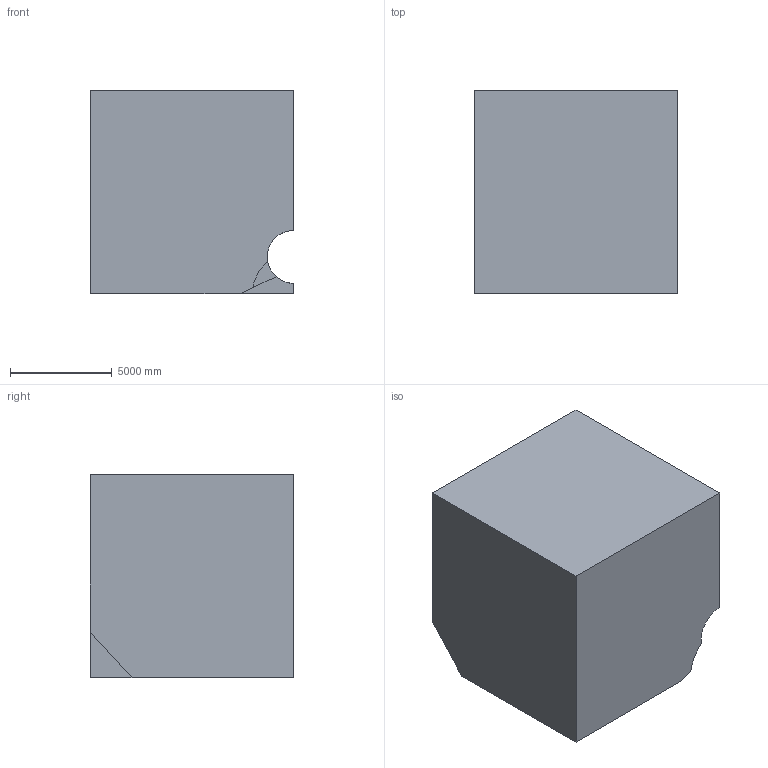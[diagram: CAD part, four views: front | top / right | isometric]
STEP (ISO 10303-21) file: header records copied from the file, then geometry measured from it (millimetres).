
FILE_DESCRIPTION (( 'STEP AP203' ), '1' );
FILE_NAME ('585.STEP', '2022-07-29T11:56:55', ( 'user' ), ( '' ), 'SwSTEP 2.0', 'SolidWorks 2021', '' );
FILE_SCHEMA (( 'CONFIG_CONTROL_DESIGN' ));
Length unit declared in the file: centimetre
Products named in the file (1): 585
Bounding box: 10000 x 10000 x 10000 mm (x, y, z)
Volume: 890263348059.4 mm3; surface area: 653064789.7 mm2
Topology: 1 solids, 1 shells, 22 faces, 57 edges, 38 vertices
Faces by surface type: plane 19, cylinder 3
Entity records: 746 total; most frequent: CARTESIAN_POINT 118, ORIENTED_EDGE 114, DIRECTION 111, EDGE_CURVE 57, LINE 49, VECTOR 49, VERTEX_POINT 38, AXIS2_PLACEMENT_3D 31
